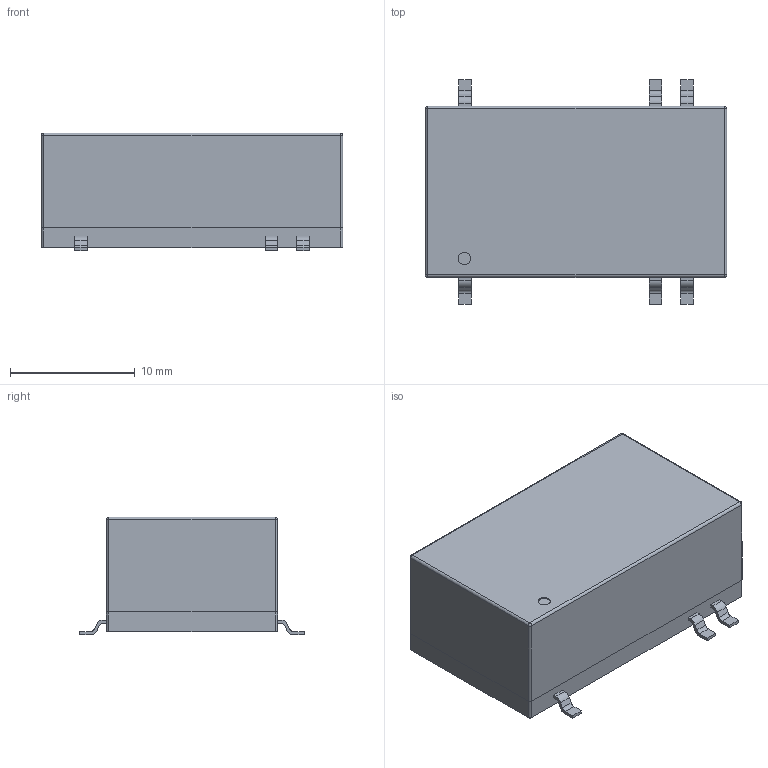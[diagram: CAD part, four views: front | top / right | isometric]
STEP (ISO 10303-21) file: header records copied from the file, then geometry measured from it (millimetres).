
FILE_DESCRIPTION(/* description */ (''),/* implementation_level */ '2;1');
FILE_NAME(/* name */ 'C:\Users\Calliope\Desktop\MS+水洗孔3D\MSHU100-W 3D(TES 2M).stp',/* time_stamp */ '2016-03-17T13:40:48+08:00',/* author */ ('Calliope'),/* organization */ (''),/* preprocessor_version */ 'ST-DEVELOPER v15.6',/* originating_system */ 'Autodesk Inventor 2015',/* authorisation */ '');
FILE_SCHEMA (('AUTOMOTIVE_DESIGN { 1 0 10303 214 3 1 1 }'));
Length unit declared in the file: millimetre
Products named in the file (3): MSDW1000-W Header; MSHU100-W Cover; MSHU100-W+MSDEU02-HI-W
Assembly tree (2 placements, depth 2):
  MSHU100-W+MSDEU02-HI-W
    MSDW1000-W Header
    MSHU100-W Cover
Bounding box: 24.15 x 18 x 9.45 mm (x, y, z)
Volume: 1347.1 mm3; surface area: 2666.9 mm2
Topology: 2 solids, 2 shells, 155 faces, 397 edges, 258 vertices
Faces by surface type: plane 108, cylinder 43, sphere 4
Full cylindrical faces by diameter (mm): 1 x2, 1.5 x1
Entity records: 4691 total; most frequent: CARTESIAN_POINT 808, DIRECTION 796, ORIENTED_EDGE 780, EDGE_CURVE 390, LINE 304, VECTOR 304, VERTEX_POINT 258, AXIS2_PLACEMENT_3D 246
